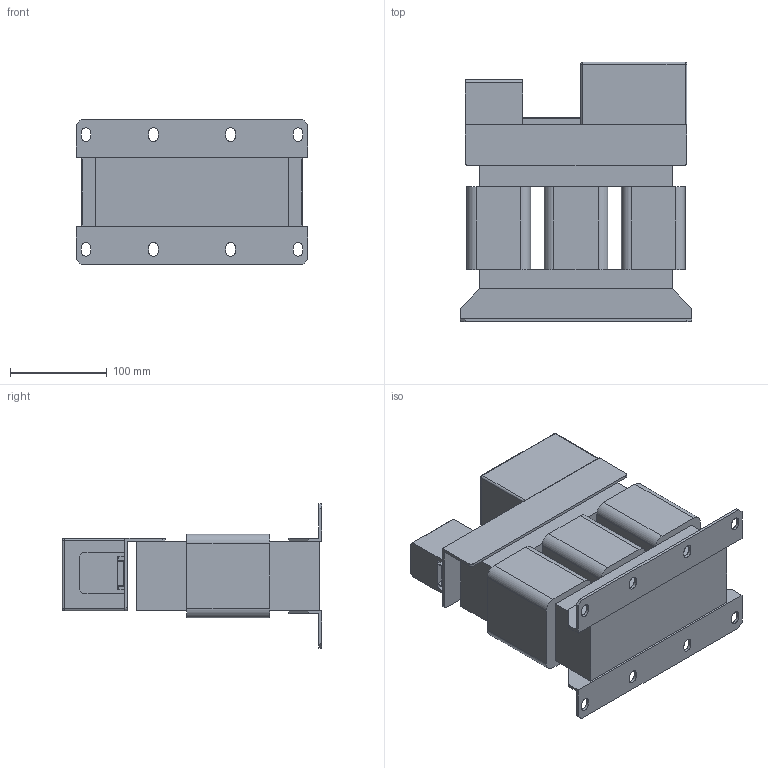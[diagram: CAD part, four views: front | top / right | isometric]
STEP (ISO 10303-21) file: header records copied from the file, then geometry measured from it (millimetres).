
FILE_DESCRIPTION(/* description */ (''),/* implementation_level */ '2;1');
FILE_NAME(/* name */ 'Sin-T4-038.stp',/* time_stamp */ '2025-03-10T16:19:19+04:00',/* author */ ('Лео'),/* organization */ (''),/* preprocessor_version */ 'ST-DEVELOPER v19.2',/* originating_system */ 'Autodesk Inventor 2024',/* authorisation */ '');
FILE_SCHEMA (('AUTOMOTIVE_DESIGN { 1 0 10303 214 3 1 1 }'));
Length unit declared in the file: millimetre
Products named in the file (1): Sin-T4-004
Bounding box: 240 x 269 x 150 mm (x, y, z)
Volume: 3778005.5 mm3; surface area: 411840.6 mm2
Topology: 10 solids, 10 shells, 152 faces, 384 edges, 252 vertices
Faces by surface type: plane 108, cylinder 40, sphere 4
Entity records: 4598 total; most frequent: CARTESIAN_POINT 789, DIRECTION 770, ORIENTED_EDGE 768, EDGE_CURVE 384, LINE 304, VECTOR 304, VERTEX_POINT 252, AXIS2_PLACEMENT_3D 233
